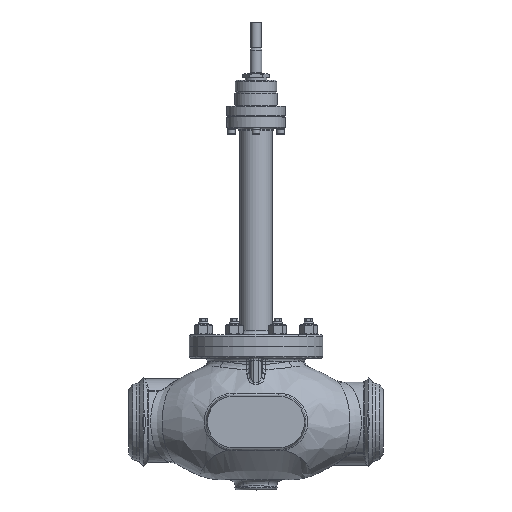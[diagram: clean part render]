
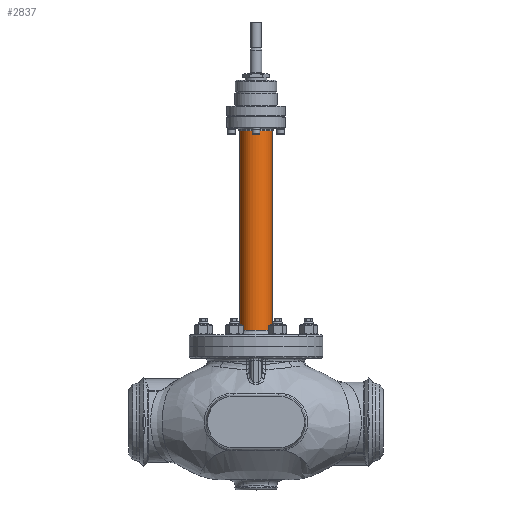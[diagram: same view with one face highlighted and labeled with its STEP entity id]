
A CAD part, top view. The second image highlights one B-rep face of the part: STEP entity #2837.
In plain terms, the highlighted cylindrical face has radius 25 mm (diameter 50 mm), a full revolution.
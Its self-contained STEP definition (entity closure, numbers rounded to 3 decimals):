
#1632=CYLINDRICAL_SURFACE('',#11736,25.);
#2837=ADVANCED_FACE('',(#3685,#3686),#1632,.T.);
#3685=FACE_BOUND('',#4382,.T.);
#3686=FACE_BOUND('',#4383,.T.);
#4382=EDGE_LOOP('',(#6278));
#4383=EDGE_LOOP('',(#6279));
#6278=ORIENTED_EDGE('',*,*,#9658,.F.);
#6279=ORIENTED_EDGE('',*,*,#9669,.T.);
#8431=VERTEX_POINT('',#21114);
#8442=VERTEX_POINT('',#21148);
#9658=EDGE_CURVE('',#8431,#8431,#10856,.T.);
#9669=EDGE_CURVE('',#8442,#8442,#10867,.T.);
#10856=CIRCLE('',#11712,25.);
#10867=CIRCLE('',#11735,25.);
#11712=AXIS2_PLACEMENT_3D('',#21113,#13678,#13679);
#11735=AXIS2_PLACEMENT_3D('',#21147,#13724,#13725);
#11736=AXIS2_PLACEMENT_3D('',#21149,#13726,#13727);
#13678=DIRECTION('',(0.,-1.,0.));
#13679=DIRECTION('',(0.,0.,1.));
#13724=DIRECTION('',(0.,-1.,0.));
#13725=DIRECTION('',(0.,0.,1.));
#13726=DIRECTION('',(0.,1.,0.));
#13727=DIRECTION('',(0.,0.,1.));
#21113=CARTESIAN_POINT('',(0.,128.,0.));
#21114=CARTESIAN_POINT('',(0.,128.,25.));
#21147=CARTESIAN_POINT('',(0.,455.,0.));
#21148=CARTESIAN_POINT('',(0.,455.,25.));
#21149=CARTESIAN_POINT('',(0.,63.,0.));
